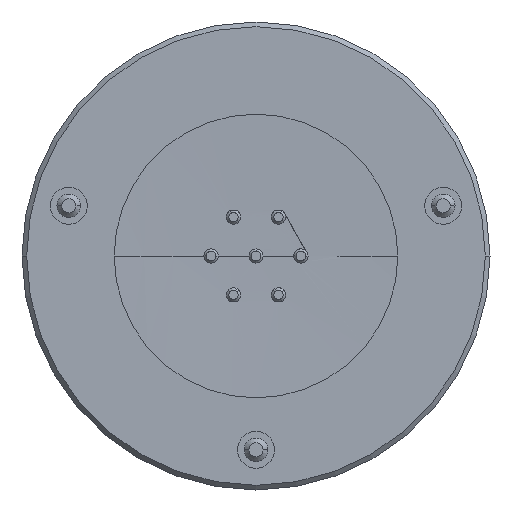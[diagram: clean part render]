
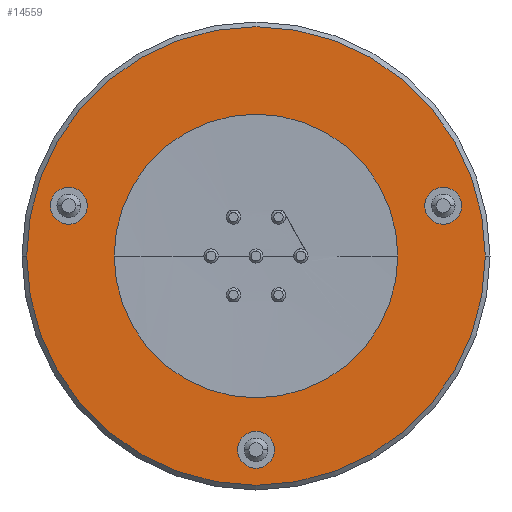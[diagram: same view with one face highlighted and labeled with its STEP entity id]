
A CAD part, left-side view. The second image highlights one B-rep face of the part: STEP entity #14559.
In plain terms, the highlighted planar face has unit normal (-1, 0, 0).
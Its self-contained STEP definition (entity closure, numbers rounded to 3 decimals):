
#2715=CARTESIAN_POINT('',(-12.5,0.,0.));
#2716=DIRECTION('',(1.,0.,0.));
#2717=DIRECTION('',(0.,-1.,0.));
#2718=AXIS2_PLACEMENT_3D('',#2715,#2716,#2717);
#2720=CARTESIAN_POINT('',(-12.5,0.,0.));
#2721=DIRECTION('',(1.,0.,0.));
#2722=DIRECTION('',(0.,0.,-1.));
#2723=AXIS2_PLACEMENT_3D('',#2720,#2721,#2722);
#2725=CARTESIAN_POINT('',(-12.5,0.,0.));
#2726=DIRECTION('',(1.,0.,0.));
#2727=DIRECTION('',(0.,1.,0.));
#2728=AXIS2_PLACEMENT_3D('',#2725,#2726,#2727);
#2730=CARTESIAN_POINT('',(-12.5,0.,0.));
#2731=DIRECTION('',(1.,0.,0.));
#2732=DIRECTION('',(0.,0.,1.));
#2733=AXIS2_PLACEMENT_3D('',#2730,#2731,#2732);
#2735=CARTESIAN_POINT('',(-12.5,3.96,1.061));
#2736=DIRECTION('',(-1.,0.,0.));
#2737=DIRECTION('',(0.,-1.,0.));
#2738=AXIS2_PLACEMENT_3D('',#2735,#2736,#2737);
#2740=CARTESIAN_POINT('',(-12.5,3.96,1.061));
#2741=DIRECTION('',(-1.,0.,0.));
#2742=DIRECTION('',(0.,1.,0.));
#2743=AXIS2_PLACEMENT_3D('',#2740,#2741,#2742);
#2745=CARTESIAN_POINT('',(-12.5,-3.96,1.061));
#2746=DIRECTION('',(-1.,0.,0.));
#2747=DIRECTION('',(0.,-1.,0.));
#2748=AXIS2_PLACEMENT_3D('',#2745,#2746,#2747);
#2750=CARTESIAN_POINT('',(-12.5,-3.96,1.061));
#2751=DIRECTION('',(-1.,0.,0.));
#2752=DIRECTION('',(0.,1.,0.));
#2753=AXIS2_PLACEMENT_3D('',#2750,#2751,#2752);
#2755=CARTESIAN_POINT('',(-12.5,0.,-4.1));
#2756=DIRECTION('',(-1.,0.,0.));
#2757=DIRECTION('',(0.,-1.,0.));
#2758=AXIS2_PLACEMENT_3D('',#2755,#2756,#2757);
#2760=CARTESIAN_POINT('',(-12.5,0.,-4.1));
#2761=DIRECTION('',(-1.,0.,0.));
#2762=DIRECTION('',(0.,1.,0.));
#2763=AXIS2_PLACEMENT_3D('',#2760,#2761,#2762);
#2765=CARTESIAN_POINT('',(-12.5,0.,0.));
#2766=DIRECTION('',(-1.,0.,0.));
#2767=DIRECTION('',(0.,-1.,0.));
#2768=AXIS2_PLACEMENT_3D('',#2765,#2766,#2767);
#2770=CARTESIAN_POINT('',(-12.5,0.,0.));
#2771=DIRECTION('',(-1.,0.,0.));
#2772=DIRECTION('',(0.,1.,0.));
#2773=AXIS2_PLACEMENT_3D('',#2770,#2771,#2772);
#5529=CARTESIAN_POINT('',(-12.5,0.,4.85));
#5530=CARTESIAN_POINT('',(-12.5,-4.85,0.));
#5531=VERTEX_POINT('',#5529);
#5532=VERTEX_POINT('',#5530);
#5533=CARTESIAN_POINT('',(-12.5,4.85,0.));
#5534=VERTEX_POINT('',#5533);
#5535=CARTESIAN_POINT('',(-12.5,0.,-4.85));
#5536=VERTEX_POINT('',#5535);
#5537=CARTESIAN_POINT('',(-12.5,3.57,1.061));
#5538=CARTESIAN_POINT('',(-12.5,4.35,1.061));
#5539=VERTEX_POINT('',#5537);
#5540=VERTEX_POINT('',#5538);
#5541=CARTESIAN_POINT('',(-12.5,-4.35,1.061));
#5542=CARTESIAN_POINT('',(-12.5,-3.57,1.061));
#5543=VERTEX_POINT('',#5541);
#5544=VERTEX_POINT('',#5542);
#5545=CARTESIAN_POINT('',(-12.5,-0.39,-4.1));
#5546=CARTESIAN_POINT('',(-12.5,0.39,-4.1));
#5547=VERTEX_POINT('',#5545);
#5548=VERTEX_POINT('',#5546);
#5549=CARTESIAN_POINT('',(-12.5,-3.,0.));
#5550=CARTESIAN_POINT('',(-12.5,3.,0.));
#5551=VERTEX_POINT('',#5549);
#5552=VERTEX_POINT('',#5550);
#14522=CARTESIAN_POINT('',(-12.5,0.,0.));
#14523=DIRECTION('',(1.,0.,0.));
#14524=DIRECTION('',(0.,-1.,0.));
#14525=AXIS2_PLACEMENT_3D('',#14522,#14523,#14524);
#14526=PLANE('',#14525);
#14528=ORIENTED_EDGE('',*,*,#14527,.T.);
#14530=ORIENTED_EDGE('',*,*,#14529,.T.);
#14531=ORIENTED_EDGE('',*,*,#14504,.T.);
#14532=ORIENTED_EDGE('',*,*,#14502,.T.);
#14533=EDGE_LOOP('',(#14528,#14530,#14531,#14532));
#14534=FACE_OUTER_BOUND('',#14533,.F.);
#14536=ORIENTED_EDGE('',*,*,#14535,.T.);
#14538=ORIENTED_EDGE('',*,*,#14537,.T.);
#14539=EDGE_LOOP('',(#14536,#14538));
#14540=FACE_BOUND('',#14539,.F.);
#14542=ORIENTED_EDGE('',*,*,#14541,.T.);
#14544=ORIENTED_EDGE('',*,*,#14543,.T.);
#14545=EDGE_LOOP('',(#14542,#14544));
#14546=FACE_BOUND('',#14545,.F.);
#14548=ORIENTED_EDGE('',*,*,#14547,.T.);
#14550=ORIENTED_EDGE('',*,*,#14549,.T.);
#14551=EDGE_LOOP('',(#14548,#14550));
#14552=FACE_BOUND('',#14551,.F.);
#14554=ORIENTED_EDGE('',*,*,#14553,.T.);
#14556=ORIENTED_EDGE('',*,*,#14555,.T.);
#14557=EDGE_LOOP('',(#14554,#14556));
#14558=FACE_BOUND('',#14557,.F.);
#2719=CIRCLE('',#2718,4.85);
#2724=CIRCLE('',#2723,4.85);
#2729=CIRCLE('',#2728,4.85);
#2734=CIRCLE('',#2733,4.85);
#2739=CIRCLE('',#2738,0.39);
#2744=CIRCLE('',#2743,0.39);
#2749=CIRCLE('',#2748,0.39);
#2754=CIRCLE('',#2753,0.39);
#2759=CIRCLE('',#2758,0.39);
#2764=CIRCLE('',#2763,0.39);
#2769=CIRCLE('',#2768,3.);
#2774=CIRCLE('',#2773,3.);
#14502=EDGE_CURVE('',#5531,#5532,#2734,.T.);
#14504=EDGE_CURVE('',#5534,#5531,#2729,.T.);
#14527=EDGE_CURVE('',#5532,#5536,#2719,.T.);
#14529=EDGE_CURVE('',#5536,#5534,#2724,.T.);
#14535=EDGE_CURVE('',#5539,#5540,#2739,.T.);
#14537=EDGE_CURVE('',#5540,#5539,#2744,.T.);
#14541=EDGE_CURVE('',#5543,#5544,#2749,.T.);
#14543=EDGE_CURVE('',#5544,#5543,#2754,.T.);
#14547=EDGE_CURVE('',#5547,#5548,#2759,.T.);
#14549=EDGE_CURVE('',#5548,#5547,#2764,.T.);
#14553=EDGE_CURVE('',#5551,#5552,#2769,.T.);
#14555=EDGE_CURVE('',#5552,#5551,#2774,.T.);
#14559=ADVANCED_FACE('',(#14534,#14540,#14546,#14552,#14558),#14526,.F.);
